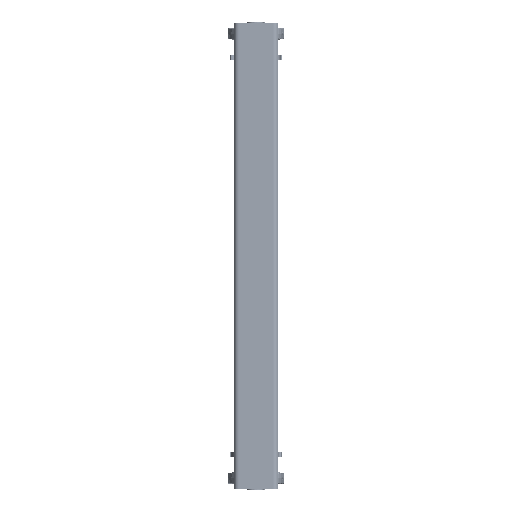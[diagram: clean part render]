
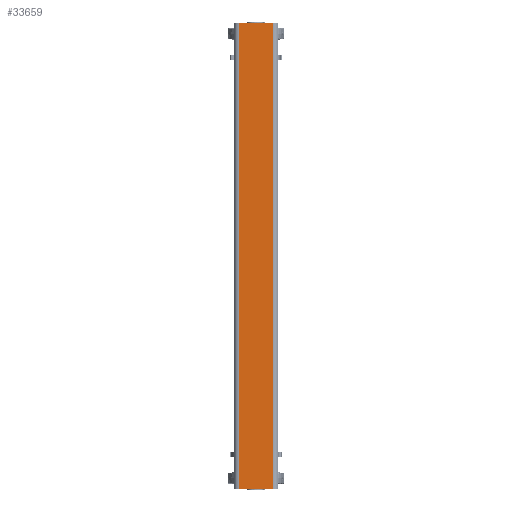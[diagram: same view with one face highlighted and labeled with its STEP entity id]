
A CAD part, left-side view. The second image highlights one B-rep face of the part: STEP entity #33659.
In plain terms, the highlighted planar face has unit normal (-1, 0, 0) as drawn and (0, 0, 1) by its records, which use the part's own axes.
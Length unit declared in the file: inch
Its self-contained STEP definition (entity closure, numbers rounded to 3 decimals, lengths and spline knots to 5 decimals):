
#296 = ORIENTED_EDGE ( 'NONE', *, *, #11732, .T. ) ;
#7237 = VECTOR ( 'NONE', #18416, 39.37008 ) ;
#9515 = LINE ( 'NONE', #53155, #7237 ) ;
#11256 = VECTOR ( 'NONE', #16215, 39.37008 ) ;
#11732 = EDGE_CURVE ( 'NONE', #17699, #33843, #9515, .T. ) ;
#13449 = CARTESIAN_POINT ( 'NONE',  ( -17., -1.22441, 0. ) ) ;
#13606 = VERTEX_POINT ( 'NONE', #13449 ) ;
#16215 = DIRECTION ( 'NONE',  ( 1., 0., 0. ) ) ;
#17012 = ORIENTED_EDGE ( 'NONE', *, *, #45102, .T. ) ;
#17699 = VERTEX_POINT ( 'NONE', #19539 ) ;
#18416 = DIRECTION ( 'NONE',  ( 0., 1., 0. ) ) ;
#19094 = LINE ( 'NONE', #35001, #60014 ) ;
#19539 = CARTESIAN_POINT ( 'NONE',  ( 17., -1.22441, 0. ) ) ;
#19868 = DIRECTION ( 'NONE',  ( 0., 0., 1. ) ) ;
#21136 = DIRECTION ( 'NONE',  ( -1., 0., 0. ) ) ;
#22935 = LINE ( 'NONE', #46701, #27873 ) ;
#27397 = CARTESIAN_POINT ( 'NONE',  ( 17., 1.22441, 0. ) ) ;
#27873 = VECTOR ( 'NONE', #51677, 39.37008 ) ;
#29110 = LINE ( 'NONE', #43027, #11256 ) ;
#33504 = EDGE_LOOP ( 'NONE', ( #45704, #53898, #296, #17012 ) ) ;
#33659 = ADVANCED_FACE ( 'NONE', ( #59866 ), #40048, .T. ) ;
#33843 = VERTEX_POINT ( 'NONE', #27397 ) ;
#35001 = CARTESIAN_POINT ( 'NONE',  ( 17., 1.22441, 0. ) ) ;
#38986 = VERTEX_POINT ( 'NONE', #56112 ) ;
#40048 = PLANE ( 'NONE',  #60833 ) ;
#41428 = EDGE_CURVE ( 'NONE', #38986, #13606, #22935, .T. ) ;
#43027 = CARTESIAN_POINT ( 'NONE',  ( -17., -1.22441, 0. ) ) ;
#44678 = DIRECTION ( 'NONE',  ( 1., 0., 0. ) ) ;
#45102 = EDGE_CURVE ( 'NONE', #33843, #38986, #19094, .T. ) ;
#45704 = ORIENTED_EDGE ( 'NONE', *, *, #41428, .T. ) ;
#46701 = CARTESIAN_POINT ( 'NONE',  ( -17., -1.5, 0. ) ) ;
#50381 = EDGE_CURVE ( 'NONE', #13606, #17699, #29110, .T. ) ;
#51677 = DIRECTION ( 'NONE',  ( 0., -1., 0. ) ) ;
#53155 = CARTESIAN_POINT ( 'NONE',  ( 17., -1.5, 0. ) ) ;
#53898 = ORIENTED_EDGE ( 'NONE', *, *, #50381, .T. ) ;
#56112 = CARTESIAN_POINT ( 'NONE',  ( -17., 1.22441, 0. ) ) ;
#56564 = CARTESIAN_POINT ( 'NONE',  ( 0., 0., 0. ) ) ;
#59866 = FACE_OUTER_BOUND ( 'NONE', #33504, .T. ) ;
#60014 = VECTOR ( 'NONE', #21136, 39.37008 ) ;
#60833 = AXIS2_PLACEMENT_3D ( 'NONE', #56564, #19868, #44678 ) ;
